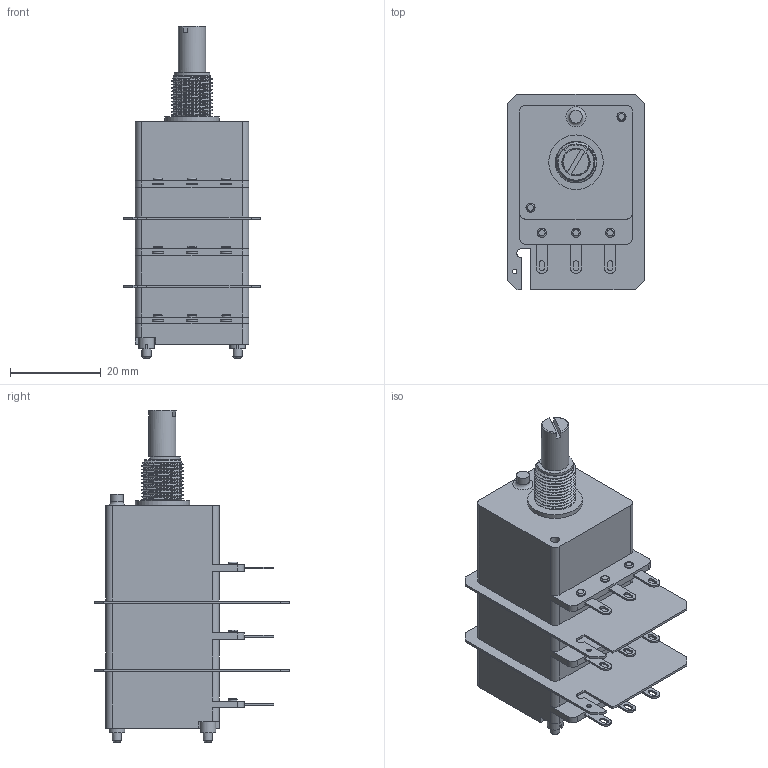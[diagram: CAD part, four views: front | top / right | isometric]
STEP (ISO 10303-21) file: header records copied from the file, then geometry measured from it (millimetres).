
FILE_DESCRIPTION(('FreeCAD Model'),'2;1');
FILE_NAME('Open CASCADE Shape Model','2026-07-14T16:38:36',(''),(''), 'Open CASCADE STEP processor 7.8','FreeCAD','Unknown');
FILE_SCHEMA(('AUTOMOTIVE_DESIGN { 1 0 10303 214 1 1 1 1 }'));
Length unit declared in the file: millimetre
Products named in the file (1): 3CP25XX-S-6S20
Bounding box: 30 x 43 x 73 mm (x, y, z)
Volume: 32421.5 mm3; surface area: 12308.1 mm2
Topology: 1 solids, 20 shells, 406 faces, 942 edges, 617 vertices
Faces by surface type: plane 222, cylinder 127, bspline 38, torus 13, cone 6
Full cylindrical faces by diameter (mm): 1 x2, 1.9 x10, 2 x25, 2.2 x14, 2.8 x1, 3.5 x2, 4.5 x3, 5.4 x1, 6 x1, 6.05 x1, 8 x1, 9 x2, 12 x1
Entity records: 18379 total; most frequent: CARTESIAN_POINT 6334, DIRECTION 1920, ORIENTED_EDGE 1882, EDGE_CURVE 941, AXIS2_PLACEMENT_3D 716, VERTEX_POINT 617, FACE_BOUND 488, EDGE_LOOP 488
